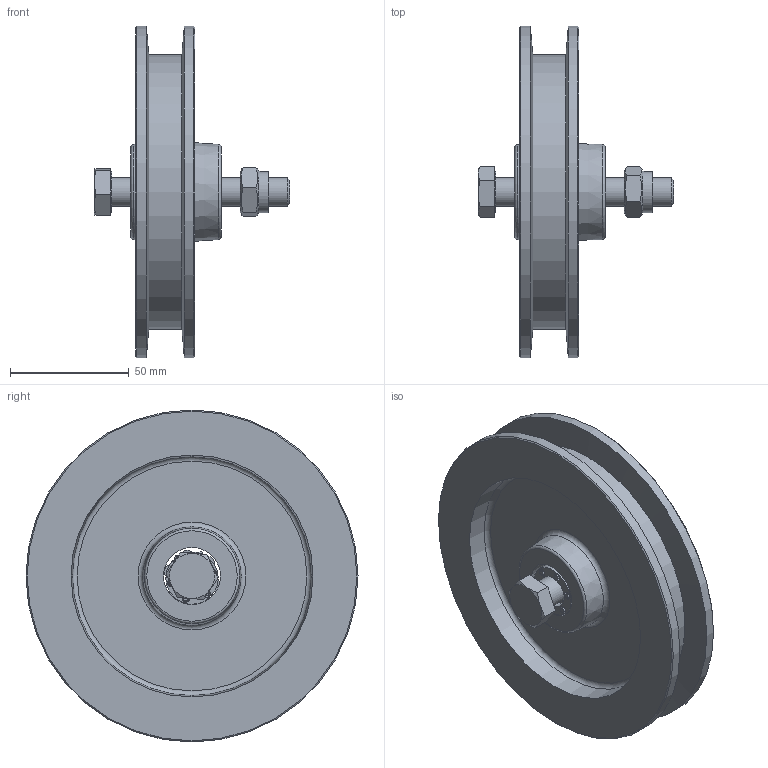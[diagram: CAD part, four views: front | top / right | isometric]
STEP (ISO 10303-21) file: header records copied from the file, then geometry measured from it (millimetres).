
FILE_DESCRIPTION(/* description */ ('Schiebetorrolle lose Ø140'),/* implementation_level */ '2;1');
FILE_NAME(/* name */ 'C:\Temp\AG_VJobSTP\010330463.iam.stp',/* time_stamp */ '2022-09-02T09:52:27+02:00',/* author */ ('O. Loukota'),/* organization */ (''),/* preprocessor_version */ 'ST-DEVELOPER v18.1',/* originating_system */ 'Autodesk Inventor 2021',/* authorisation */ '');
FILE_SCHEMA (('AUTOMOTIVE_DESIGN { 1 0 10303 214 3 1 1 }'));
Length unit declared in the file: millimetre
Products named in the file (8): 010330463; 337000107; DIN EN ISO 7040 - M12; DIN 931-1 - M12 x 75; 010330463_01; 337000294; 337000295; 337000296
Assembly tree (12 placements, depth 3):
  010330463
    337000107
    DIN EN ISO 7040 - M12
    DIN 931-1 - M12 x 75
    010330463_01
      337000294
      337000295
      337000296  x6
Bounding box: 82.5 x 140 x 140 mm (x, y, z)
Volume: 200768.1 mm3; surface area: 74675.1 mm2
Topology: 11 solids, 11 shells, 183 faces, 405 edges, 261 vertices
Faces by surface type: plane 89, cylinder 44, cone 31, bspline 13, torus 6
Full cylindrical faces by diameter (mm): 2 x12, 6 x6, 10.106 x1, 12 x1, 14 x2, 17.4 x2, 22 x2, 24 x1, 116 x1, 140 x2
Entity records: 5253 total; most frequent: CARTESIAN_POINT 1046, DIRECTION 845, ORIENTED_EDGE 780, EDGE_CURVE 390, AXIS2_PLACEMENT_3D 330, VERTEX_POINT 251, EDGE_LOOP 205, LINE 185
